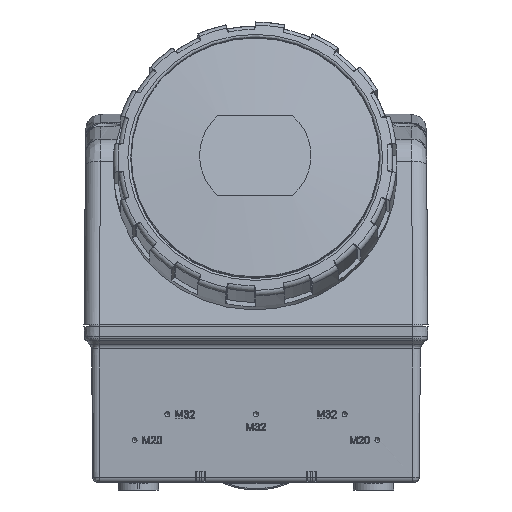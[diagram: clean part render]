
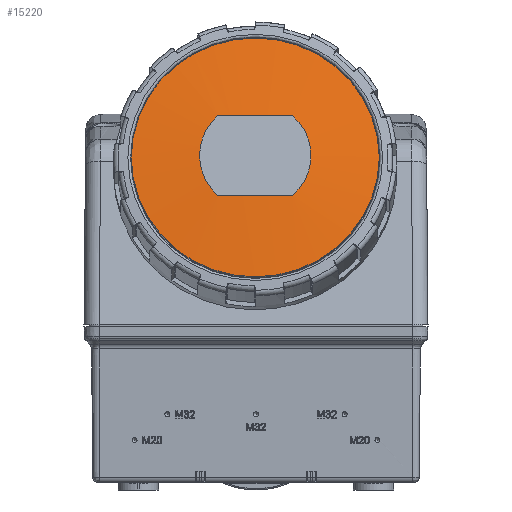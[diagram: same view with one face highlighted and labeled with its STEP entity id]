
A CAD part, front view. The second image highlights one B-rep face of the part: STEP entity #15220.
In plain terms, the highlighted spherical face has radius 458 mm.
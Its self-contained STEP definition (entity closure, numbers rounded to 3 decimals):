
#337=SPHERICAL_SURFACE('',#62047,458.);
#1423=FACE_BOUND('',#22019,.T.);
#1424=FACE_BOUND('',#22020,.T.);
#15220=ADVANCED_FACE('',(#1423,#1424),#337,.T.);
#22019=EDGE_LOOP('',(#36698,#36699,#36700,#36701));
#22020=EDGE_LOOP('',(#36702));
#24613=CIRCLE('',#62026,49.05);
#24620=CIRCLE('',#62043,457.709);
#24621=CIRCLE('',#62044,22.027);
#24622=CIRCLE('',#62045,457.709);
#24623=CIRCLE('',#62046,22.027);
#36698=ORIENTED_EDGE('',*,*,#53616,.T.);
#36699=ORIENTED_EDGE('',*,*,#53617,.T.);
#36700=ORIENTED_EDGE('',*,*,#53618,.T.);
#36701=ORIENTED_EDGE('',*,*,#53619,.T.);
#36702=ORIENTED_EDGE('',*,*,#53595,.T.);
#46037=VERTEX_POINT('',#118472);
#46052=VERTEX_POINT('',#118958);
#46053=VERTEX_POINT('',#118959);
#46054=VERTEX_POINT('',#118961);
#46055=VERTEX_POINT('',#118963);
#53595=EDGE_CURVE('',#46037,#46037,#24613,.T.);
#53616=EDGE_CURVE('',#46052,#46053,#24620,.T.);
#53617=EDGE_CURVE('',#46053,#46054,#24621,.T.);
#53618=EDGE_CURVE('',#46054,#46055,#24622,.T.);
#53619=EDGE_CURVE('',#46055,#46052,#24623,.T.);
#62026=AXIS2_PLACEMENT_3D('',#118471,#73184,#73185);
#62043=AXIS2_PLACEMENT_3D('',#118957,#73220,#73221);
#62044=AXIS2_PLACEMENT_3D('',#118960,#73222,#73223);
#62045=AXIS2_PLACEMENT_3D('',#118962,#73224,#73225);
#62046=AXIS2_PLACEMENT_3D('',#118964,#73226,#73227);
#62047=AXIS2_PLACEMENT_3D('',#118965,#73228,#73229);
#73184=DIRECTION('',(0.,-0.966,0.259));
#73185=DIRECTION('',(0.,0.259,0.966));
#73220=DIRECTION('',(0.,-0.259,-0.966));
#73221=DIRECTION('',(-1.,0.,0.));
#73222=DIRECTION('',(0.,0.966,-0.259));
#73223=DIRECTION('',(1.,0.,0.));
#73224=DIRECTION('',(0.,0.259,0.966));
#73225=DIRECTION('',(1.,0.,0.));
#73226=DIRECTION('',(0.,0.966,-0.259));
#73227=DIRECTION('',(1.,0.,0.));
#73228=DIRECTION('',(0.,-0.966,0.259));
#73229=DIRECTION('',(0.,0.259,0.966));
#118471=CARTESIAN_POINT('',(52.7,-35.332,282.157));
#118472=CARTESIAN_POINT('',(52.7,-22.637,329.536));
#118957=CARTESIAN_POINT('',(52.7,400.296,148.545));
#118958=CARTESIAN_POINT('',(67.504,-41.586,266.947));
#118959=CARTESIAN_POINT('',(37.896,-41.586,266.947));
#118960=CARTESIAN_POINT('',(52.7,-37.365,282.702));
#118961=CARTESIAN_POINT('',(37.896,-33.143,298.457));
#118962=CARTESIAN_POINT('',(52.7,408.739,180.055));
#118963=CARTESIAN_POINT('',(67.504,-33.143,298.457));
#118964=CARTESIAN_POINT('',(52.7,-37.365,282.702));
#118965=CARTESIAN_POINT('',(52.7,404.517,164.3));
